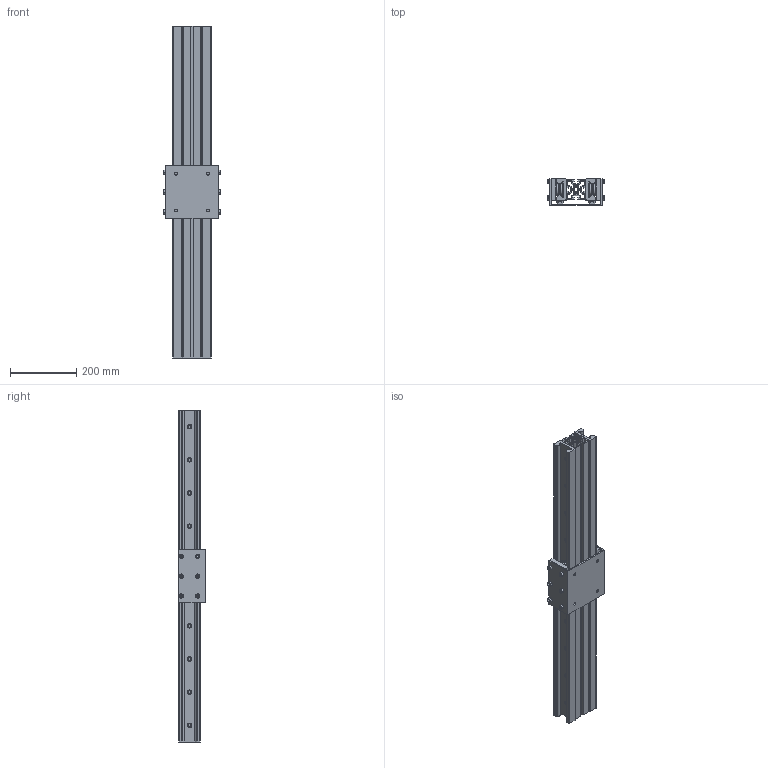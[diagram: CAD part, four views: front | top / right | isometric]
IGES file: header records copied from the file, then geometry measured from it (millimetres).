
Start section: SolidWorks IGES file using analytic representation for surfaces
Global section: file name: C:\Users\tsuch\OneDrive\デスクトップ\LSIM-DB(3D)\参考図面\LSIM65DB.IGS; native system: SolidWorks 2019; preprocessor: SolidWorks 2019; author: tsuch; date: 200728.161826; units: millimetre
Bounding box: 173.4 x 80 x 1000 mm (x, y, z)
Volume: 4145551.2 mm3; surface area: 1503725.6 mm2
Topology: 18 solids, 18 shells, 872 faces, 2160 edges, 1396 vertices
Faces by surface type: revolution 476, plane 396
